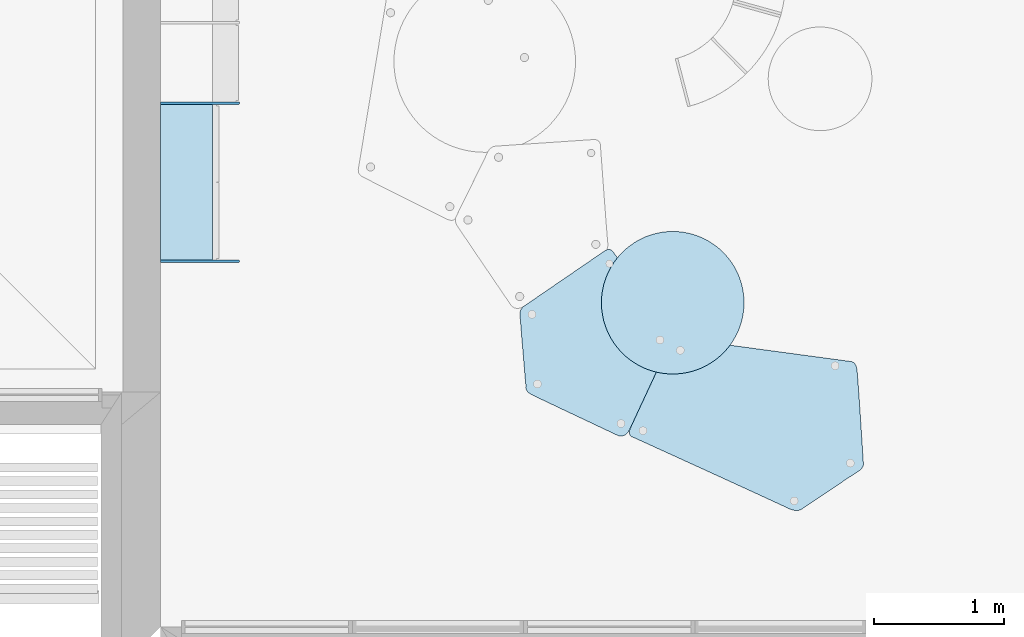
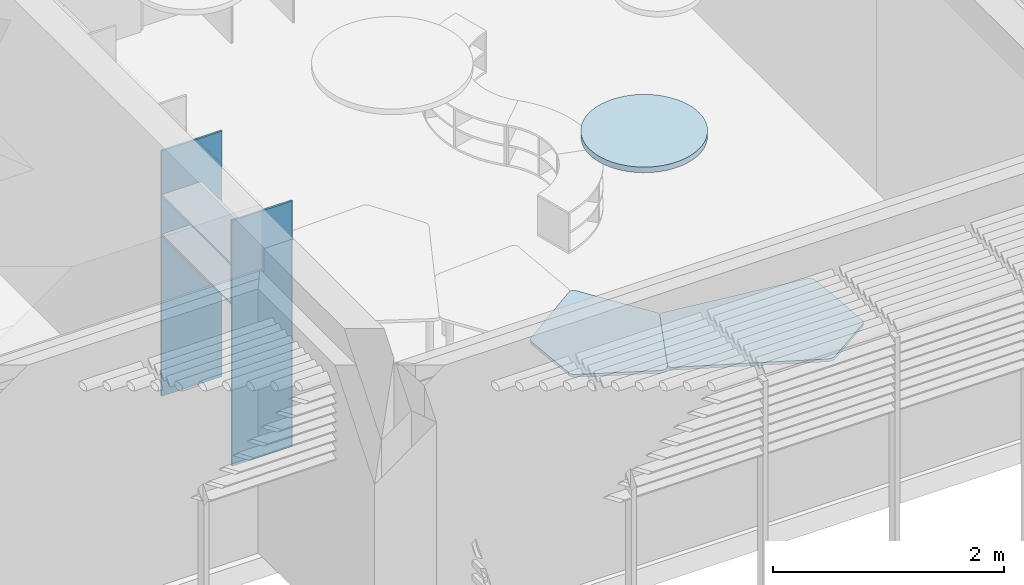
# One storey, part 8 of 64: 7 slabs.
"""IFC2X3 building model written with IfcOpenShell, lengths in metres."""

from ifc_helpers import new_model, entity, si_unit, converted_unit, derived_unit, direction, frame, frame_2d, origin, place, context, subcontext, project, spatial, polyline, circle_curve, parameter, trimmed, segment, composite_curve, rectangle, circle, outline, extrude, material, layer, layer_set, layer_usage, type_object, element, save


model = new_model("IFC2X3")

# Units and contexts
model_context = context("Model", 3, precision=1e-05, world=origin(), true_north=direction((6.123031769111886e-17, 1.0)))
body_context = subcontext(model_context, "Body", "Model", "MODEL_VIEW")
ifc_project = project(units=[si_unit("LENGTHUNIT", "METRE"), si_unit("AREAUNIT", "SQUARE_METRE"), si_unit("VOLUMEUNIT", "CUBIC_METRE"), converted_unit("PLANEANGLEUNIT", "DEGREE", entity("IfcRatioMeasure", 0.017453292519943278), si_unit("PLANEANGLEUNIT", "RADIAN"), dimensions=[0, 0, 0, 0, 0, 0, 0]), si_unit("MASSUNIT", "GRAM", prefix="KILO"), derived_unit("MASSDENSITYUNIT", [(si_unit("MASSUNIT", "GRAM", prefix="KILO"), 1), (si_unit("LENGTHUNIT", "METRE"), -3)]), derived_unit("MOMENTOFINERTIAUNIT", [(si_unit("LENGTHUNIT", "METRE"), 4)]), si_unit("TIMEUNIT", "SECOND"), si_unit("FREQUENCYUNIT", "HERTZ"), si_unit("THERMODYNAMICTEMPERATUREUNIT", "DEGREE_CELSIUS"), derived_unit("THERMALTRANSMITTANCEUNIT", [(si_unit("MASSUNIT", "GRAM", prefix="KILO"), 1), (si_unit("THERMODYNAMICTEMPERATUREUNIT", "KELVIN"), -1), (si_unit("TIMEUNIT", "SECOND"), -3)]), derived_unit("THERMALCONDUCTANCEUNIT", [(si_unit("MASSUNIT", "GRAM", prefix="KILO"), 1), (si_unit("LENGTHUNIT", "METRE"), 1), (si_unit("THERMODYNAMICTEMPERATUREUNIT", "KELVIN"), -1), (si_unit("TIMEUNIT", "SECOND"), -3)]), derived_unit("VOLUMETRICFLOWRATEUNIT", [(si_unit("LENGTHUNIT", "METRE"), 3), (si_unit("TIMEUNIT", "SECOND"), -1)]), derived_unit("MASSFLOWRATEUNIT", [(si_unit("MASSUNIT", "GRAM", prefix="KILO"), 1), (si_unit("TIMEUNIT", "SECOND"), -1)]), derived_unit("ROTATIONALFREQUENCYUNIT", [(si_unit("TIMEUNIT", "SECOND"), -1)]), si_unit("ELECTRICCURRENTUNIT", "AMPERE"), si_unit("ELECTRICVOLTAGEUNIT", "VOLT"), si_unit("POWERUNIT", "WATT"), si_unit("FORCEUNIT", "NEWTON", prefix="KILO"), si_unit("ILLUMINANCEUNIT", "LUX"), si_unit("LUMINOUSFLUXUNIT", "LUMEN"), si_unit("LUMINOUSINTENSITYUNIT", "CANDELA"), derived_unit("USERDEFINED", [(si_unit("MASSUNIT", "GRAM", prefix="KILO"), -1), (si_unit("LENGTHUNIT", "METRE"), -2), (si_unit("TIMEUNIT", "SECOND"), 3), (si_unit("LUMINOUSFLUXUNIT", "LUMEN"), 1)]), derived_unit("USERDEFINED", [(si_unit("MASSUNIT", "GRAM", prefix="KILO"), 1), (si_unit("LENGTHUNIT", "METRE"), 3), (si_unit("TIMEUNIT", "SECOND"), -3), (si_unit("ELECTRICCURRENTUNIT", "AMPERE"), -2)]), derived_unit("USERDEFINED", [(si_unit("LENGTHUNIT", "METRE"), 2), (si_unit("TIMEUNIT", "SECOND"), -2)]), derived_unit("SOUNDPOWERUNIT", [(si_unit("MASSUNIT", "GRAM", prefix="KILO"), 1), (si_unit("LENGTHUNIT", "METRE"), 2), (si_unit("TIMEUNIT", "SECOND"), -3)]), derived_unit("SOUNDPRESSUREUNIT", [(si_unit("MASSUNIT", "GRAM", prefix="KILO"), 1), (si_unit("LENGTHUNIT", "METRE"), -1), (si_unit("TIMEUNIT", "SECOND"), -2)]), derived_unit("LINEARVELOCITYUNIT", [(si_unit("LENGTHUNIT", "METRE"), 1), (si_unit("TIMEUNIT", "SECOND"), -1)]), si_unit("PRESSUREUNIT", "PASCAL"), derived_unit("USERDEFINED", [(si_unit("LENGTHUNIT", "METRE"), -2), (si_unit("MASSUNIT", "GRAM", prefix="KILO"), 1), (si_unit("TIMEUNIT", "SECOND"), -2)]), derived_unit("LINEARFORCEUNIT", [(si_unit("MASSUNIT", "GRAM", prefix="KILO"), 1), (si_unit("LENGTHUNIT", "METRE"), 1), (si_unit("TIMEUNIT", "SECOND"), -2), (si_unit("LENGTHUNIT", "METRE"), -1)]), derived_unit("PLANARFORCEUNIT", [(si_unit("MASSUNIT", "GRAM", prefix="KILO"), 1), (si_unit("LENGTHUNIT", "METRE"), 1), (si_unit("TIMEUNIT", "SECOND"), -2), (si_unit("LENGTHUNIT", "METRE"), -2)]), derived_unit("SPECIFICHEATCAPACITYUNIT", [(si_unit("LENGTHUNIT", "METRE"), 2), (si_unit("TIMEUNIT", "SECOND"), -2), (si_unit("THERMODYNAMICTEMPERATUREUNIT", "KELVIN"), -1)]), derived_unit("VAPORPERMEABILITYUNIT", [(si_unit("TIMEUNIT", "SECOND"), 1), (si_unit("LENGTHUNIT", "METRE"), -1)]), derived_unit("DYNAMICVISCOSITYUNIT", [(si_unit("MASSUNIT", "GRAM", prefix="KILO"), 1), (si_unit("LENGTHUNIT", "METRE"), -1), (si_unit("TIMEUNIT", "SECOND"), -1)]), derived_unit("THERMALEXPANSIONCOEFFICIENTUNIT", [(si_unit("THERMODYNAMICTEMPERATUREUNIT", "KELVIN"), -1)])], contexts=[model_context])

# Site, building, storey
site_placement = place(None, origin())
site = spatial("IfcSite", under=ifc_project, at=site_placement, Name="Default", CompositionType="ELEMENT")
building_placement = place(site_placement, origin())
building = spatial("IfcBuilding", under=site, at=building_placement, CompositionType="ELEMENT")
storey_placement = place(building_placement, origin())
storey = spatial("IfcBuildingStorey", under=building, at=storey_placement, Name="REZ-DE-CHAUSSÉE", CompositionType="ELEMENT", Elevation=0.0)

# Slabs
ifc_material = material(Name="Bois - Pin granuleux horizontal")
ifc_layer_1 = layer(ifc_material, 0.02)
ifc_layer_set_1 = layer_set([ifc_layer_1], Name="Sol:Dalle-007:1415")
ifc_layer_usage_1 = layer_usage(ifc_layer_set_1, "AXIS3", "POSITIVE", 0.0)
slab_type_1 = type_object("IfcSlabType", Name="Sol:Dalle-007:1415", PredefinedType="FLOOR", material=ifc_layer_set_1)
slab_1_placement = place(storey_placement, origin())
element("IfcSlab", 1, at=slab_1_placement, inside=storey, type_object=slab_type_1, material=ifc_layer_usage_1, Name="Sol:Dalle-007:1415", ObjectType="Sol:Dalle-007:1415", PredefinedType="FLOOR", context=body_context, shape_type="SweptSolid", body=[
    extrude(rectangle(XDim=1.199999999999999, YDim=0.400000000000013, at=frame_2d((-5.551115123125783e-16, 0.0), x_axis=(1.0, 0.0))), frame((110.37075228, 7.897209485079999, 1.72), z_axis=(0.0, 0.0, -1.0), x_axis=(0.0, 1.0, 0.0)), (0.0, 0.0, 1.0), 0.020000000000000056),
])
slab_2_placement = place(storey_placement, origin())
element("IfcSlab", 2, at=slab_2_placement, inside=storey, type_object=slab_type_1, material=ifc_layer_usage_1, Name="Sol:Dalle-007:1415", ObjectType="Sol:Dalle-007:1415", PredefinedType="FLOOR", context=body_context, shape_type="SweptSolid", body=[
    extrude(rectangle(XDim=1.199999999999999, YDim=0.400000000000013, at=frame_2d((-5.551115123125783e-16, 0.0), x_axis=(1.0, 0.0))), frame((110.37075228, 7.897209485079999, 2.14), z_axis=(0.0, 0.0, -1.0), x_axis=(0.0, 1.0, 0.0)), (0.0, 0.0, 1.0), 0.020000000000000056),
])
ifc_layer_2 = layer(ifc_material, 0.03)
ifc_layer_set_2 = layer_set([ifc_layer_2], Name="Sol:Dalle-007:1417")
ifc_layer_usage_2 = layer_usage(ifc_layer_set_2, "AXIS3", "POSITIVE", 0.0)
slab_type_2 = type_object("IfcSlabType", Name="Sol:Dalle-007:1417", PredefinedType="FLOOR", material=ifc_layer_set_2)
slab_3_placement = place(storey_placement, origin())
element("IfcSlab", 3, at=slab_3_placement, inside=storey, type_object=slab_type_2, material=ifc_layer_usage_2, Name="Sol:Dalle-007:1417", ObjectType="Sol:Dalle-007:1417", PredefinedType="FLOOR", context=body_context, shape_type="SweptSolid", body=[
    extrude(outline(composite_curve([segment(trimmed(circle_curve(frame_2d((0.6186940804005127, 0.4092162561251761), x_axis=(1.0, 0.0)), 0.055140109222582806), [parameter(0.0)], [parameter(15.284446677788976)], True, "PARAMETER"), True, "CONTINUOUS"), segment(trimmed(circle_curve(frame_2d((0.6319975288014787, 0.4127724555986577), x_axis=(0.9641397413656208, 0.2653951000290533)), 0.041369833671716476), [parameter(0.0)], [parameter(31.007655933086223)], True, "PARAMETER"), True, "CONTINUOUS"), segment(trimmed(circle_curve(frame_2d((0.6325583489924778, 0.4143259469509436), x_axis=(0.7016321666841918, 0.7125393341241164)), 0.03986365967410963), [parameter(0.0)], [parameter(32.87456919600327)], True, "PARAMETER"), True, "CONTINUOUS"), segment(trimmed(circle_curve(frame_2d((51.95560351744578, 248.60317459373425), x_axis=(-0.20250581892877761, -0.9792810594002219)), 253.39999129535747), [parameter(359.919694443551)], [parameter(0.0)], True, "PARAMETER"), False, "CONTINUOUS"), segment(trimmed(circle_curve(frame_2d((21.559215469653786, 102.79883929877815), x_axis=(-0.2035817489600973, -0.9790579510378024)), 104.46093607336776), [parameter(359.8588206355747)], [parameter(0.0)], True, "PARAMETER"), False, "CONTINUOUS"), segment(trimmed(circle_curve(frame_2d((5.019184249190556, 24.248476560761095), x_axis=(-0.20581422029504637, -0.9785910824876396)), 24.188076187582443), [parameter(359.7764374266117)], [parameter(0.0)], True, "PARAMETER"), False, "CONTINUOUS"), segment(trimmed(circle_curve(frame_2d((0.3761169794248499, 2.6537865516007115), x_axis=(-0.20358117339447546, -0.9790580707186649)), 2.0999171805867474), [parameter(358.6135266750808)], [parameter(0.0)], True, "PARAMETER"), False, "CONTINUOUS"), segment(trimmed(circle_curve(frame_2d((-0.13367435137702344, 0.47658305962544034), x_axis=(0.23987316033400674, 0.9708042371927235)), 0.13618450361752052), [parameter(0.0)], [parameter(8.862617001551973)], True, "PARAMETER"), True, "CONTINUOUS"), segment(trimmed(circle_curve(frame_2d((-0.12915480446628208, 0.5292088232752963), x_axis=(0.08862974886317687, 0.9960646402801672)), 0.08336517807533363), [parameter(0.0)], [parameter(11.1707372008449)], True, "PARAMETER"), True, "CONTINUOUS"), segment(trimmed(circle_curve(frame_2d((-0.13392533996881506, 0.5659318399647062), x_axis=(-0.08776193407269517, 0.9961414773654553)), 0.046351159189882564), [parameter(0.0)], [parameter(27.754107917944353)], True, "PARAMETER"), True, "CONTINUOUS"), segment(trimmed(circle_curve(frame_2d((-0.14188781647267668, 0.5792784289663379), x_axis=(-0.5560286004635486, 0.8311631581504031)), 0.030823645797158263), [parameter(0.0)], [parameter(15.071968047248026)], True, "PARAMETER"), True, "CONTINUOUS"), segment(trimmed(circle_curve(frame_2d((-0.21822827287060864, 0.6234308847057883), x_axis=(0.9121607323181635, -0.4098326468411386)), 0.058245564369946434), [parameter(348.99288421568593)], [parameter(0.0)], True, "PARAMETER"), False, "CONTINUOUS"), segment(trimmed(circle_curve(frame_2d((-140.97083678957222, 126.69442452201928), x_axis=(0.7449114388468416, -0.6671633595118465)), 189.01602982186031), [parameter(359.89583319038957)], [parameter(0.0)], True, "PARAMETER"), False, "CONTINUOUS"), segment(trimmed(circle_curve(frame_2d((-59.11077213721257, 53.06857435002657), x_axis=(0.743955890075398, -0.6682287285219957)), 78.91683016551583), [parameter(359.81835603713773)], [parameter(0.0)], True, "PARAMETER"), False, "CONTINUOUS"), segment(trimmed(circle_curve(frame_2d((-14.421707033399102, 12.666133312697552), x_axis=(0.7419817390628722, -0.6704200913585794)), 18.67174978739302), [parameter(359.97887439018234)], [parameter(0.0)], True, "PARAMETER"), False, "CONTINUOUS"), segment(polyline([(-0.5722260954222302, 0.14310980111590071), (-0.6678989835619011, 0.036679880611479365)]), True, "CONTINUOUS"), segment(trimmed(circle_curve(frame_2d((-0.5688810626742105, -0.05389694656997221), x_axis=(-0.7378575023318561, 0.6749565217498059)), 0.13419653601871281), [parameter(0.0)], [parameter(12.19688936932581)], True, "PARAMETER"), True, "CONTINUOUS"), segment(trimmed(circle_curve(frame_2d((-0.6097862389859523, -0.02996922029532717), x_axis=(-0.8641461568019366, 0.5032409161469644)), 0.08680704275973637), [parameter(0.0)], [parameter(14.80828140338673)], True, "PARAMETER"), True, "CONTINUOUS"), segment(trimmed(circle_curve(frame_2d((-0.6329391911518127, -0.023630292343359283), x_axis=(-0.9638975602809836, 0.2662733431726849)), 0.06280206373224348), [parameter(0.0)], [parameter(30.78146163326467)], True, "PARAMETER"), True, "CONTINUOUS"), segment(trimmed(circle_curve(frame_2d((-0.6379389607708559, -0.02599821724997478), x_axis=(-0.9686746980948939, -0.24833310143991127)), 0.0573620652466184), [parameter(0.0)], [parameter(34.24950335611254)], True, "PARAMETER"), True, "CONTINUOUS"), segment(trimmed(circle_curve(frame_2d((157.76881479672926, 177.36050042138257), x_axis=(-0.6660752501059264, -0.7458845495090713)), 237.87802746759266), [parameter(0.0)], [parameter(0.08691229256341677)], True, "PARAMETER"), True, "CONTINUOUS"), segment(trimmed(circle_curve(frame_2d((59.296680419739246, 66.70268238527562), x_axis=(-0.665216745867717, -0.746650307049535)), 89.75000488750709), [parameter(0.0)], [parameter(0.1627680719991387)], True, "PARAMETER"), True, "CONTINUOUS"), segment(trimmed(circle_curve(frame_2d((11.560627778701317, 12.806817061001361), x_axis=(-0.6633359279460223, -0.7483217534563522)), 17.75351293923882), [parameter(0.0)], [parameter(0.28700061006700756)], True, "PARAMETER"), True, "CONTINUOUS"), segment(trimmed(circle_curve(frame_2d((0.32975922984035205, -0.013288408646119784), x_axis=(-0.6746472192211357, -0.7381403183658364)), 0.7099700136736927), [parameter(0.0)], [parameter(3.34504777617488)], True, "PARAMETER"), True, "CONTINUOUS"), segment(trimmed(circle_curve(frame_2d((-0.0746615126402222, -0.5062401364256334), x_axis=(-0.5959600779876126, -0.8030140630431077)), 0.07242816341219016), [parameter(0.0)], [parameter(33.893854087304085)], True, "PARAMETER"), True, "CONTINUOUS"), segment(trimmed(circle_curve(frame_2d((-0.07116477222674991, -0.5013041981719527), x_axis=(-0.08883063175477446, -0.9960467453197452)), 0.07759119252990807), [parameter(0.0)], [parameter(13.20435142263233)], True, "PARAMETER"), True, "CONTINUOUS"), segment(trimmed(circle_curve(frame_2d((-0.0013539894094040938, -0.65010996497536), x_axis=(-0.6330206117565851, 0.7741349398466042)), 0.09299435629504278), [parameter(358.95797713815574)], [parameter(0.0)], True, "PARAMETER"), False, "CONTINUOUS"), segment(trimmed(circle_curve(frame_2d((-0.02251957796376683, -0.623962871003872), x_axis=(-0.6129293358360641, 0.7901377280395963)), 0.059358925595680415), [parameter(337.99710107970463)], [parameter(0.0)], True, "PARAMETER"), False, "CONTINUOUS"), segment(trimmed(circle_curve(frame_2d((-0.029699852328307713, -0.5960147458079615), x_axis=(-0.2942593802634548, 0.9557255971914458)), 0.030519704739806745), [parameter(343.77817860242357)], [parameter(0.0)], True, "PARAMETER"), False, "CONTINUOUS"), segment(trimmed(circle_curve(frame_2d((-300.25057950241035, 911.4309964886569), x_axis=(0.3126838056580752, -0.9498572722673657)), 960.1405620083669), [parameter(0.0)], [parameter(0.014648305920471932)], True, "PARAMETER"), True, "CONTINUOUS"), segment(trimmed(circle_curve(frame_2d((-15.47913733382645, 47.465930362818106), x_axis=(0.3108218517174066, -0.9504681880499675)), 50.453708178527), [parameter(0.0)], [parameter(0.12385865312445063)], True, "PARAMETER"), True, "CONTINUOUS"), segment(trimmed(circle_curve(frame_2d((21.939466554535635, -64.91601156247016), x_axis=(-0.3181564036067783, 0.9480382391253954)), 67.99441981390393), [parameter(359.9491988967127)], [parameter(0.0)], True, "PARAMETER"), False, "CONTINUOUS"), segment(trimmed(circle_curve(frame_2d((1.687462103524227, -4.2817383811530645), x_axis=(-0.32542365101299, 0.9455683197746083)), 4.067598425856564), [parameter(358.4583862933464)], [parameter(0.0)], True, "PARAMETER"), False, "CONTINUOUS"), segment(trimmed(circle_curve(frame_2d((0.491807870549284, -0.47011068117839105), x_axis=(-0.3304853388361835, 0.9438111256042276)), 0.07287863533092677), [parameter(356.36418229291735)], [parameter(0.0)], True, "PARAMETER"), False, "CONTINUOUS"), segment(trimmed(circle_curve(frame_2d((0.44425857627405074, -0.3191228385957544), x_axis=(0.3260638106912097, -0.9453477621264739)), 0.08548733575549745), [parameter(0.0)], [parameter(28.009506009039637)], True, "PARAMETER"), True, "CONTINUOUS"), segment(trimmed(circle_curve(frame_2d((0.4523573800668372, -0.32834848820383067), x_axis=(0.7431801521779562, -0.669091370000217)), 0.0732835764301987), [parameter(0.0)], [parameter(22.127027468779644)], True, "PARAMETER"), True, "CONTINUOUS"), segment(trimmed(circle_curve(frame_2d((0.47580269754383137, -0.33553420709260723), x_axis=(0.9317450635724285, -0.3631131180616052)), 0.04880673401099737), [parameter(0.0)], [parameter(13.683743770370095)], True, "PARAMETER"), True, "CONTINUOUS"), segment(polyline([(0.524179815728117, -0.3419957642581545), (0.6717588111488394, 0.390692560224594)]), True, "CONTINUOUS"), segment(trimmed(circle_curve(frame_2d((0.5893213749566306, 0.40930688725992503), x_axis=(0.9754424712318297, -0.22025436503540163)), 0.08451286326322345), [parameter(0.0)], [parameter(12.662529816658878)], True, "PARAMETER"), True, "CONTINUOUS")], self_intersect=False)), frame((113.49489981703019, 6.5931222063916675, 0.59), z_axis=(0.0, 0.0, -1.0), x_axis=(-0.3912292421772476, 0.9202932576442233, 0.0)), (0.0, 0.0, 1.0), 0.03000000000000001),
])
slab_4_placement = place(storey_placement, origin())
element("IfcSlab", 4, at=slab_4_placement, inside=storey, type_object=slab_type_2, material=ifc_layer_usage_2, Name="Sol:Dalle-007:1417", ObjectType="Sol:Dalle-007:1417", PredefinedType="FLOOR", context=body_context, shape_type="SweptSolid", body=[
    extrude(outline(composite_curve([segment(polyline([(-0.7700446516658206, -0.6246692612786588), (0.5751891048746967, -0.6246692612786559)]), True, "CONTINUOUS"), segment(trimmed(circle_curve(frame_2d((0.5823560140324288, -0.5883494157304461), x_axis=(-0.19359451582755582, -0.9810816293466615)), 0.037020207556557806), [parameter(0.0)], [parameter(30.462590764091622)], True, "PARAMETER"), True, "CONTINUOUS"), segment(trimmed(circle_curve(frame_2d((0.5795382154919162, -0.5768671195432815), x_axis=(0.3084620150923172, -0.9512366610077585)), 0.04880174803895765), [parameter(0.0)], [parameter(30.53520630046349)], True, "PARAMETER"), True, "CONTINUOUS"), segment(trimmed(circle_curve(frame_2d((0.5631577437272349, -0.5619683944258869), x_axis=(0.7461193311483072, -0.665812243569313)), 0.07094283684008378), [parameter(0.0)], [parameter(14.589557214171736)], True, "PARAMETER"), True, "CONTINUOUS"), segment(trimmed(circle_curve(frame_2d((0.5270139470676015, -0.5434808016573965), x_axis=(0.8899635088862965, -0.45603174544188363)), 0.11154042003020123), [parameter(0.0)], [parameter(12.018657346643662)], True, "PARAMETER"), True, "CONTINUOUS"), segment(trimmed(circle_curve(frame_2d((-0.20424537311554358, -0.3517438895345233), x_axis=(0.9670622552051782, -0.25453996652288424)), 0.8675161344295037), [parameter(0.0)], [parameter(3.2776425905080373)], True, "PARAMETER"), True, "CONTINUOUS"), segment(trimmed(circle_curve(frame_2d((-8.460988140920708, 1.4574784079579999), x_axis=(0.9771330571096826, -0.21262875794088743)), 9.320058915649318), [parameter(0.0)], [parameter(0.5579972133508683)], True, "PARAMETER"), True, "CONTINUOUS"), segment(trimmed(circle_curve(frame_2d((-38.03639489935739, 7.609876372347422), x_axis=(0.9790683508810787, -0.20353172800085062)), 39.52861093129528), [parameter(0.0)], [parameter(0.3567350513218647)], True, "PARAMETER"), True, "CONTINUOUS"), segment(trimmed(circle_curve(frame_2d((-92.2815319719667, 18.608263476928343), x_axis=(0.9801661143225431, -0.19817766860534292)), 94.87747943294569), [parameter(0.0)], [parameter(0.20427057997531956)], True, "PARAMETER"), True, "CONTINUOUS"), segment(trimmed(circle_curve(frame_2d((0.7384120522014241, 0.15109407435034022), x_axis=(0.9507022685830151, -0.310105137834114)), 0.0443778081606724), [parameter(0.0)], [parameter(25.986118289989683)], True, "PARAMETER"), True, "CONTINUOUS"), segment(trimmed(circle_curve(frame_2d((0.7254229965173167, 0.15119027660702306), x_axis=(0.994459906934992, 0.10511657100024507)), 0.05726073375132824), [parameter(0.0)], [parameter(20.79988298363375)], True, "PARAMETER"), True, "CONTINUOUS"), segment(trimmed(circle_curve(frame_2d((0.7118351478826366, 0.14346062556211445), x_axis=(0.8875405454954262, 0.46072961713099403)), 0.07287863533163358), [parameter(0.0)], [parameter(22.213606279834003)], True, "PARAMETER"), True, "CONTINUOUS"), segment(trimmed(circle_curve(frame_2d((34.00895139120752, 38.146581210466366), x_axis=(-0.6590185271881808, -0.752126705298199)), 50.453708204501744), [parameter(359.68339776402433)], [parameter(0.0)], True, "PARAMETER"), False, "CONTINUOUS"), segment(trimmed(circle_curve(frame_2d((635.687436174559, 720.4319976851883), x_axis=(-0.661504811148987, -0.7499409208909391)), 960.1405503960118), [parameter(359.9853516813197)], [parameter(0.0)], True, "PARAMETER"), False, "CONTINUOUS"), segment(trimmed(circle_curve(frame_2d((0.33968063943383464, 0.5298841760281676), x_axis=(0.8549944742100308, 0.5186371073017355)), 0.03051970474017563), [parameter(0.0)], [parameter(16.22182468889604)], True, "PARAMETER"), True, "CONTINUOUS"), segment(trimmed(circle_curve(frame_2d((0.31919056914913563, 0.5095664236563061), x_axis=(0.6927943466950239, 0.7211352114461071)), 0.0593589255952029), [parameter(0.0)], [parameter(22.002898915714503)], True, "PARAMETER"), True, "CONTINUOUS"), segment(trimmed(circle_curve(frame_2d((0.30732113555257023, 0.47808993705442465), x_axis=(0.3651875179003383, 0.9309339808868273)), 0.09299435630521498), [parameter(0.0)], [parameter(23.03339021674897)], True, "PARAMETER"), True, "CONTINUOUS"), segment(trimmed(circle_curve(frame_2d((0.3068987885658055, 0.4179984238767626), x_axis=(-0.01435572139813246, 0.9998969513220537)), 0.15306473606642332), [parameter(0.0)], [parameter(9.835959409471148)], True, "PARAMETER"), True, "CONTINUOUS"), segment(trimmed(circle_curve(frame_2d((0.3209762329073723, 0.34254935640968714), x_axis=(-0.18444134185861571, 0.9828435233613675)), 0.22981580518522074), [parameter(0.0)], [parameter(8.254747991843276)], True, "PARAMETER"), True, "CONTINUOUS"), segment(trimmed(circle_curve(frame_2d((-0.838117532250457, 3.861312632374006), x_axis=(0.3121526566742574, -0.9500319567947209)), 3.474952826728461), [parameter(358.6042345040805)], [parameter(0.0)], True, "PARAMETER"), False, "CONTINUOUS"), segment(trimmed(circle_curve(frame_2d((-13.335102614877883, 44.22068787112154), x_axis=(0.2952659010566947, -0.9554151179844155)), 45.724767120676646), [parameter(359.79731546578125)], [parameter(0.0)], True, "PARAMETER"), False, "CONTINUOUS"), segment(trimmed(circle_curve(frame_2d((-59.60730216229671, 195.72135425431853), x_axis=(0.292055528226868, -0.9564013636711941)), 204.13426199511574), [parameter(359.87486221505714)], [parameter(0.0)], True, "PARAMETER"), False, "CONTINUOUS"), segment(trimmed(circle_curve(frame_2d((-146.93016528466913, 483.4596248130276), x_axis=(0.2902254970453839, -0.9569582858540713)), 504.83109801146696), [parameter(359.9298355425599)], [parameter(0.0)], True, "PARAMETER"), False, "CONTINUOUS"), segment(trimmed(circle_curve(frame_2d((-1.005634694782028, 0.14535884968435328), x_axis=(-0.0422498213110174, 0.9991070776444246)), 0.03293324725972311), [parameter(0.0)], [parameter(40.019817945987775)], True, "PARAMETER"), True, "CONTINUOUS"), segment(trimmed(circle_curve(frame_2d((-1.0040417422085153, 0.14393579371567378), x_axis=(-0.6793517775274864, 0.7338127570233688)), 0.03505905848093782), [parameter(0.0)], [parameter(36.756761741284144)], True, "PARAMETER"), True, "CONTINUOUS"), segment(trimmed(circle_curve(frame_2d((-0.9799308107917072, 0.1389666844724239), x_axis=(-0.9818158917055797, 0.18983559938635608)), 0.059673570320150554), [parameter(0.0)], [parameter(15.399023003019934)], True, "PARAMETER"), True, "CONTINUOUS"), segment(trimmed(circle_curve(frame_2d((-0.9324069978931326, 0.1424768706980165), x_axis=(-0.9971153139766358, -0.07590158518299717)), 0.10732662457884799), [parameter(0.0)], [parameter(11.464734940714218)], True, "PARAMETER"), True, "CONTINUOUS"), segment(trimmed(circle_curve(frame_2d((0.6566549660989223, 0.5875976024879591), x_axis=(-0.962886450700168, -0.26990680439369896)), 1.757553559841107), [parameter(0.0)], [parameter(1.6507039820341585)], True, "PARAMETER"), True, "CONTINUOUS"), segment(trimmed(circle_curve(frame_2d((16.84361780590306, 5.49411297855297), x_axis=(-0.956788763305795, -0.2907838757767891)), 18.671749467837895), [parameter(0.0)], [parameter(0.2623296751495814)], True, "PARAMETER"), True, "CONTINUOUS"), segment(polyline([(-0.9962563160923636, -0.01706833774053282), (-0.81727303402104, -0.5904987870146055)]), True, "CONTINUOUS"), segment(trimmed(circle_curve(frame_2d((-0.830526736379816, -0.603512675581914), x_axis=(0.7135326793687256, 0.7006219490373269)), 0.0185747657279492), [parameter(342.9764720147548)], [parameter(0.0)], True, "PARAMETER"), False, "CONTINUOUS"), segment(trimmed(circle_curve(frame_2d((-0.8410476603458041, -0.6098114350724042), x_axis=(0.876077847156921, 0.4821696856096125)), 0.030823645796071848), [parameter(349.3141983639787)], [parameter(0.0)], True, "PARAMETER"), False, "CONTINUOUS"), segment(trimmed(circle_curve(frame_2d((-0.7640988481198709, -0.5667279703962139), x_axis=(-0.8182147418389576, -0.5749127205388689)), 0.05824556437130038), [parameter(0.0)], [parameter(49.04742579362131)], True, "PARAMETER"), True, "CONTINUOUS")], self_intersect=False)), frame((114.83551016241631, 5.972420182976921, 0.5900000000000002), z_axis=(0.0, 0.0, -1.0), x_axis=(0.9910272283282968, -0.13366013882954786, 0.0)), (0.0, 0.0, 1.0), 0.030000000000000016),
])
ifc_layer_3 = layer(ifc_material, 0.06)
ifc_layer_set_3 = layer_set([ifc_layer_3], Name="Sol:Dalle-006:1419")
ifc_layer_usage_3 = layer_usage(ifc_layer_set_3, "AXIS3", "POSITIVE", 0.0)
slab_type_3 = type_object("IfcSlabType", Name="Sol:Dalle-006:1419", PredefinedType="FLOOR", material=ifc_layer_set_3)
slab_5_placement = place(storey_placement, origin())
element("IfcSlab", 5, at=slab_5_placement, inside=storey, type_object=slab_type_3, material=ifc_layer_usage_3, Name="Sol:Dalle-006:1419", ObjectType="Sol:Dalle-006:1419", PredefinedType="FLOOR", context=body_context, shape_type="SweptSolid", body=[
    extrude(circle(Radius=0.5500000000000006, at=frame_2d((-4.4772046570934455e-29, 3.2486013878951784e-15), x_axis=(1.0, 0.0))), frame((114.120752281, 6.967209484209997, 2.3599999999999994), z_axis=(0.0, 0.0, -1.0), x_axis=(-1.0, 0.0, 0.0)), (0.0, 0.0, 1.0), 0.059999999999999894),
])
ifc_layer_4 = layer(ifc_material, 2.6)
ifc_layer_set_4 = layer_set([ifc_layer_4], Name="Sol:Dalle-006:1522")
ifc_layer_usage_4 = layer_usage(ifc_layer_set_4, "AXIS3", "POSITIVE", 0.0)
slab_type_4 = type_object("IfcSlabType", Name="Sol:Dalle-006:1522", PredefinedType="FLOOR", material=ifc_layer_set_4)
slab_6_placement = place(storey_placement, origin())
element("IfcSlab", 6, at=slab_6_placement, inside=storey, type_object=slab_type_4, material=ifc_layer_usage_4, Name="Sol:Dalle-006:1522", ObjectType="Sol:Dalle-006:1522", PredefinedType="FLOOR", context=body_context, shape_type="SweptSolid", body=[
    extrude(outline(composite_curve([segment(polyline([(-0.009999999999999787, -0.29999999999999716), (0.009999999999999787, -0.29999999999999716)]), True, "CONTINUOUS"), segment(polyline([(0.009999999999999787, -0.29999999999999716), (0.009999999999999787, 0.29999999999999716)]), True, "CONTINUOUS"), segment(trimmed(circle_curve(frame_2d((0.0, 0.29999999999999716), x_axis=(1.0, 0.0)), 0.010000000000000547), [parameter(0.0)], [parameter(180.00000000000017)], True, "PARAMETER"), True, "CONTINUOUS"), segment(polyline([(-0.009999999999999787, 0.29999999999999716), (-0.009999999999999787, -0.29999999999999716)]), True, "CONTINUOUS")], self_intersect=False)), frame((110.47075228, 8.50720948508, 2.6), z_axis=(0.0, 0.0, -1.0), x_axis=(0.0, 1.0, 0.0)), (0.0, 0.0, 1.0), 2.6),
])
slab_7_placement = place(storey_placement, origin())
element("IfcSlab", 7, at=slab_7_placement, inside=storey, type_object=slab_type_4, material=ifc_layer_usage_4, Name="Sol:Dalle-006:1522", ObjectType="Sol:Dalle-006:1522", PredefinedType="FLOOR", context=body_context, shape_type="SweptSolid", body=[
    extrude(outline(composite_curve([segment(polyline([(-0.009999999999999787, -0.29999999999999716), (0.009999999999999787, -0.29999999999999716)]), True, "CONTINUOUS"), segment(polyline([(0.009999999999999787, -0.29999999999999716), (0.009999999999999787, 0.29999999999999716)]), True, "CONTINUOUS"), segment(trimmed(circle_curve(frame_2d((0.0, 0.29999999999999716), x_axis=(1.0, 0.0)), 0.010000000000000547), [parameter(0.0)], [parameter(180.00000000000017)], True, "PARAMETER"), True, "CONTINUOUS"), segment(polyline([(-0.009999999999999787, 0.29999999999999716), (-0.009999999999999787, -0.29999999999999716)]), True, "CONTINUOUS")], self_intersect=False)), frame((110.47075228, 7.287209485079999, 2.6), z_axis=(0.0, 0.0, -1.0), x_axis=(0.0, 1.0, 0.0)), (0.0, 0.0, 1.0), 2.6),
])

save(model, "model.ifc")
